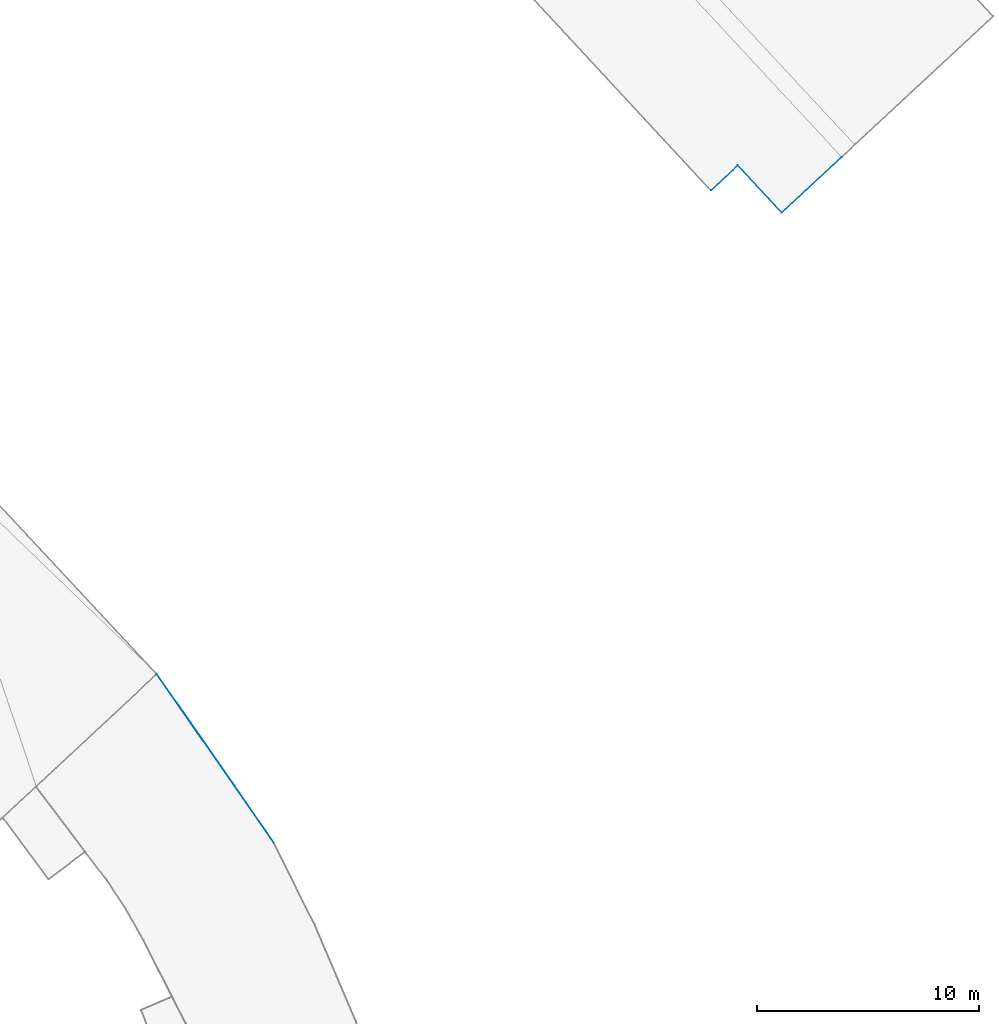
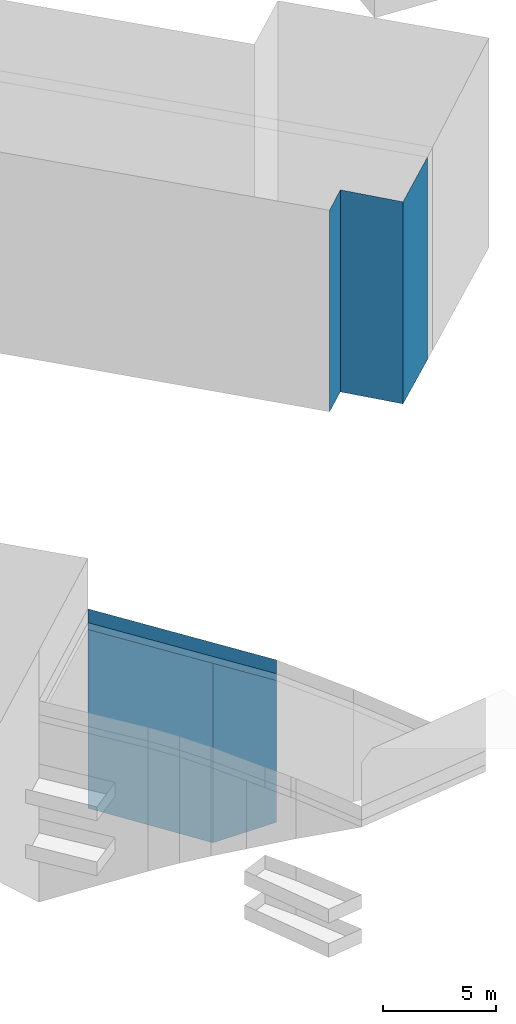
# Not in any storey, part 21 of 136: 8 walls.
"""IFC4 building model written with IfcOpenShell, lengths in metres."""

from ifc_helpers import new_model, entity, si_unit, converted_unit, frame, origin, place, context, subcontext, project, spatial, face_set, surface_model, element, save


model = new_model("IFC4")

# Units and contexts
model_context = context("Model", 3, precision=1e-05, world=origin())
body_context = subcontext(model_context, "Body", "Model", "MODEL_VIEW")
ifc_project = project(units=[converted_unit("PLANEANGLEUNIT", "DEGREE", entity("IfcRatioMeasure", 0.0174532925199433), si_unit("PLANEANGLEUNIT", "RADIAN"), dimensions=[0, 0, 0, 0, 0, 0, 0]), si_unit("AREAUNIT", "SQUARE_METRE"), si_unit("LENGTHUNIT", "METRE")], contexts=[model_context])

# Site, building
site_placement = place(None, origin())
site = spatial("IfcSite", under=ifc_project, at=site_placement, Name="_site")
building_1_placement = place(site_placement, origin())
building_1 = spatial("IfcBuilding", under=site, at=building_1_placement, Name="_building")

# Walls
wall_1_placement = place(building_1_placement, origin())
element("IfcWall", 1, at=wall_1_placement, inside=building_1, Name="Wall", PredefinedType="NOTDEFINED", context=body_context, shape_type="SurfaceModel", body=[
    surface_model("IfcFaceBasedSurfaceModel", [(167.11, -30.07, 48.41), (172.37, -37.66, 48.41), (172.37, -37.66, 48.04), (167.11, -30.07, 48.04)], [face_set([[[0, 1, 2, 3]]])]),
])
wall_2_placement = place(building_1_placement, origin())
element("IfcWall", 2, at=wall_2_placement, inside=building_1, Name="Wall", PredefinedType="NOTDEFINED", context=body_context, shape_type="SurfaceModel", body=[
    surface_model("IfcFaceBasedSurfaceModel", [(170.61, -35.09, 48.04), (172.37, -37.66, 48.04), (172.37, -37.66, 40.363), (170.61, -35.09, 38.314)], [face_set([[[0, 1, 2, 3]]])]),
])
wall_3_placement = place(building_1_placement, origin())
element("IfcWall", 3, at=wall_3_placement, inside=building_1, Name="Wall", PredefinedType="NOTDEFINED", context=body_context, shape_type="SurfaceModel", body=[
    surface_model("IfcFaceBasedSurfaceModel", [(167.11, -30.07, 48.04), (170.61, -35.09, 48.04), (170.61, -35.09, 38.314), (167.11, -30.07, 38.37)], [face_set([[[0, 1, 2, 3]]])]),
])
for number, where, name in (
    (4, (0.0, 0.0, 0.0), "Wall"),
    (5, (0.0, 0.0, 0.0), "Wall"),
):
    element("IfcWall", number, at=place(building_1_placement, frame(where)), inside=building_1, Name=name, PredefinedType="NOTDEFINED", context=body_context, shape_type="SurfaceModel", body=[
        surface_model("IfcFaceBasedSurfaceModel", [(167.11, -30.07, 48.41), (172.37, -37.66, 48.41), (172.37, -37.66, 49.16), (167.11, -30.07, 49.16)], [face_set([[[0, 1, 2, 3]]])]),
    ])

# Building
building_2_placement = place(site_placement, origin())
building_2 = spatial("IfcBuilding", under=site, at=building_2_placement, Name="_building")

# Walls
wall_4_placement = place(building_2_placement, origin())
element("IfcWall", 6, at=wall_4_placement, inside=building_2, Name="Wall", PredefinedType="NOTDEFINED", context=body_context, shape_type="SurfaceModel", body=[
    surface_model("IfcFaceBasedSurfaceModel", [(193.24, -7.189, 48.81), (192.04, -8.32, 48.81), (192.04, -8.32, 37.905), (193.24, -7.189, 37.874)], [face_set([[[0, 1, 2, 3]]])]),
])
wall_5_placement = place(building_2_placement, origin())
element("IfcWall", 7, at=wall_5_placement, inside=building_2, Name="Wall", PredefinedType="NOTDEFINED", context=body_context, shape_type="SurfaceModel", body=[
    surface_model("IfcFaceBasedSurfaceModel", [(195.22, -9.32, 48.76), (193.24, -7.189, 48.81), (193.24, -7.189, 37.874), (195.22, -9.32, 37.824)], [face_set([[[0, 1, 2, 3]]])]),
])
wall_6_placement = place(building_2_placement, origin())
element("IfcWall", 8, at=wall_6_placement, inside=building_2, Name="Wall", PredefinedType="NOTDEFINED", context=body_context, shape_type="SurfaceModel", body=[
    surface_model("IfcFaceBasedSurfaceModel", [(197.91, -6.82, 48.72), (195.22, -9.32, 48.76), (195.22, -9.32, 37.824), (197.91, -6.82, 37.745)], [face_set([[[0, 1, 2, 3]]])]),
])

save(model, "model.ifc")
